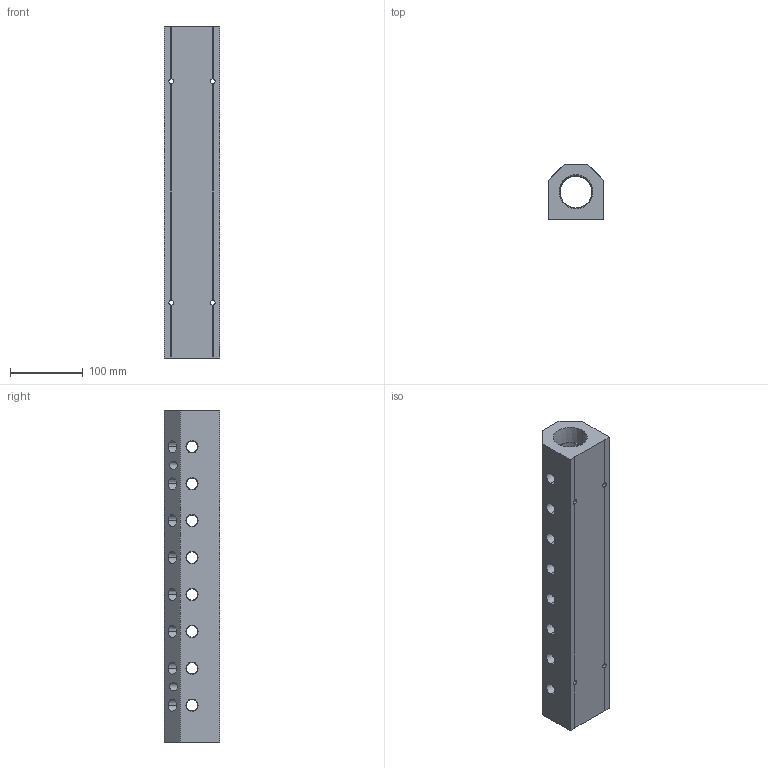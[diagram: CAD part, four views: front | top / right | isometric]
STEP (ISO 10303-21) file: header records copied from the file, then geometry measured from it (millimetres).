
FILE_DESCRIPTION (( 'STEP AP214' ), '1' );
FILE_NAME ('ALM8ABCDE-N6N24-457B.step', '2022-02-07T09:08:30', ( '' ), ( '' ), 'SwSTEP 2.0', 'SolidWorks 2020', '' );
FILE_SCHEMA (( 'AUTOMOTIVE_DESIGN' ));
Length unit declared in the file: millimetre
Products named in the file (1): ALM8ABCDE-N6N24-457B
Bounding box: 76.2 x 76.2 x 457 mm (x, y, z)
Volume: 1567380.7 mm3; surface area: 221553.9 mm2
Topology: 1 solids, 1 shells, 423 faces, 1151 edges, 754 vertices
Faces by surface type: plane 245, cone 84, bspline 76, cylinder 18
Entity records: 25693 total; most frequent: CARTESIAN_POINT 11357, ORIENTED_EDGE 2302, DIRECTION 1715, EDGE_CURVE 1151, LINE 787, VECTOR 787, VERTEX_POINT 754, EDGE_LOOP 537
